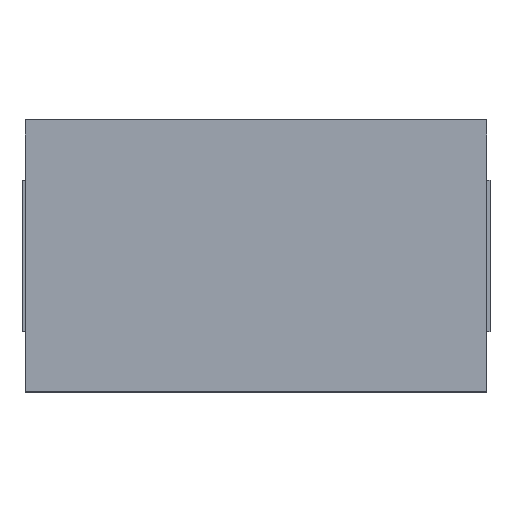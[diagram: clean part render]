
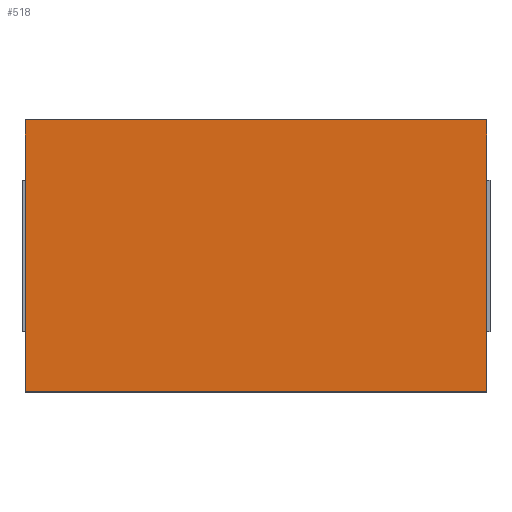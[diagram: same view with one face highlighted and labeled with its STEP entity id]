
A CAD part, top view. The second image highlights one B-rep face of the part: STEP entity #518.
In plain terms, the highlighted planar face has unit normal (0, 0, 1).
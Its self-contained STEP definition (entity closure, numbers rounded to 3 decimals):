
#361=CARTESIAN_POINT('',(8.75,4.721,1.4));
#362=VERTEX_POINT('',#361);
#369=CARTESIAN_POINT('',(8.75,0.421,1.4));
#370=VERTEX_POINT('',#369);
#371=CARTESIAN_POINT('',(8.75,4.721,1.4));
#372=DIRECTION('',(0.0,-1.0,0.0));
#373=VECTOR('',#372,4.3);
#374=LINE('',#371,#373);
#375=EDGE_CURVE('',#362,#370,#374,.T.);
#408=CARTESIAN_POINT('',(1.45,0.421,1.4));
#409=VERTEX_POINT('',#408);
#416=CARTESIAN_POINT('',(1.45,4.721,1.4));
#417=VERTEX_POINT('',#416);
#418=CARTESIAN_POINT('',(1.45,0.421,1.4));
#419=DIRECTION('',(0.0,1.0,0.0));
#420=VECTOR('',#419,4.3);
#421=LINE('',#418,#420);
#422=EDGE_CURVE('',#409,#417,#421,.T.);
#448=CARTESIAN_POINT('',(1.45,4.721,1.4));
#449=DIRECTION('',(1.0,0.0,0.0));
#450=VECTOR('',#449,7.3);
#451=LINE('',#448,#450);
#452=EDGE_CURVE('',#417,#362,#451,.T.);
#470=CARTESIAN_POINT('',(8.75,0.421,1.4));
#471=DIRECTION('',(-1.0,0.0,0.0));
#472=VECTOR('',#471,7.3);
#473=LINE('',#470,#472);
#474=EDGE_CURVE('',#370,#409,#473,.T.);
#507=CARTESIAN_POINT('',(5.1,2.571,1.4));
#508=DIRECTION('',(0.0,0.0,1.0));
#509=DIRECTION('',(1.0,0.0,0.0));
#510=AXIS2_PLACEMENT_3D('',#507,#508,#509);
#511=PLANE('',#510);
#512=ORIENTED_EDGE('',*,*,#422,.F.);
#513=ORIENTED_EDGE('',*,*,#474,.F.);
#514=ORIENTED_EDGE('',*,*,#375,.F.);
#515=ORIENTED_EDGE('',*,*,#452,.F.);
#516=EDGE_LOOP('',(#512,#513,#514,#515));
#517=FACE_OUTER_BOUND('',#516,.T.);
#518=ADVANCED_FACE('',(#517),#511,.T.);
